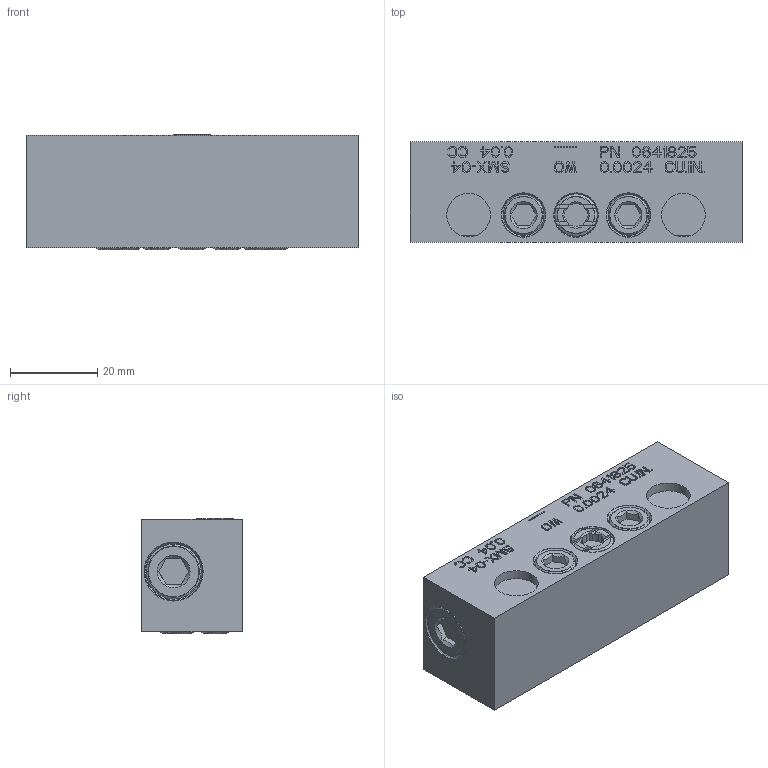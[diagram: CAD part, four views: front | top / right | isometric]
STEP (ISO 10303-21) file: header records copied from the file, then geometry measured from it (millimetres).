
FILE_DESCRIPTION((''),'2;1');
FILE_NAME('0641825_SMX_04','2023-07-21T09:56:44',('pietro.masciave'),(''),'CREO PARAMETRIC BY PTC INC, 2022281','CREO PARAMETRIC BY PTC INC, 2022281','');
FILE_SCHEMA(('CONFIG_CONTROL_DESIGN'));
Length unit declared in the file: millimetre
Products named in the file (1): 0641825_SMX_04
Bounding box: 76 x 23 x 26.33 mm (x, y, z)
Volume: 43757.8 mm3; surface area: 12682.8 mm2
Topology: 1 solids, 13 shells, 1341 faces, 3715 edges, 2481 vertices
Faces by surface type: plane 1138, cylinder 119, cone 54, torus 30
Entity records: 43640 total; most frequent: CARTESIAN_POINT 9021, ORIENTED_EDGE 7390, DIRECTION 6723, EDGE_CURVE 3715, VECTOR 3197, LINE 3197, VERTEX_POINT 2481, AXIS2_PLACEMENT_3D 1763
